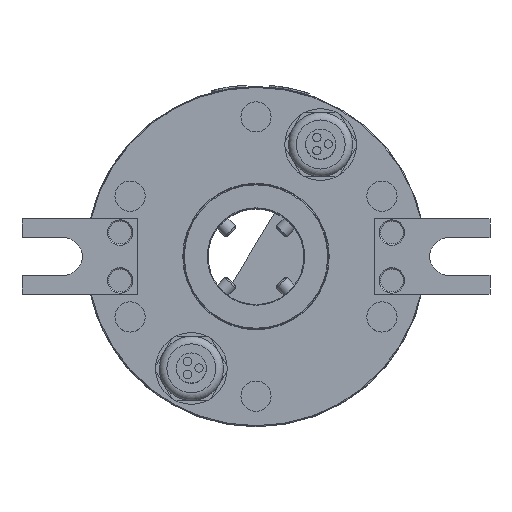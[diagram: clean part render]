
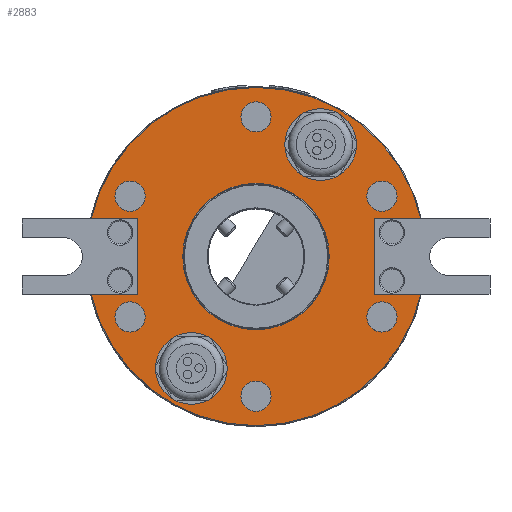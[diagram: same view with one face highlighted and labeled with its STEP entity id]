
A CAD part, top view. The second image highlights one B-rep face of the part: STEP entity #2883.
In plain terms, the highlighted planar face has unit normal (0, 0, 1).
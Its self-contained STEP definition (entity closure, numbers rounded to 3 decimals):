
#367=FACE_BOUND('',#5011,.T.);
#368=FACE_BOUND('',#5012,.T.);
#369=FACE_BOUND('',#5013,.T.);
#370=FACE_BOUND('',#5014,.T.);
#371=FACE_BOUND('',#5015,.T.);
#372=FACE_BOUND('',#5016,.T.);
#373=FACE_BOUND('',#5017,.T.);
#374=FACE_BOUND('',#5018,.T.);
#375=FACE_BOUND('',#5019,.T.);
#376=FACE_BOUND('',#5020,.T.);
#744=CIRCLE('',#15620,19.4);
#745=CIRCLE('',#15622,4.);
#746=CIRCLE('',#15624,4.);
#747=CIRCLE('',#15626,4.);
#748=CIRCLE('',#15628,4.);
#749=CIRCLE('',#15630,4.);
#750=CIRCLE('',#15632,4.);
#751=CIRCLE('',#15634,9.5);
#752=CIRCLE('',#15636,9.5);
#755=CIRCLE('',#15648,44.8);
#756=CIRCLE('',#15649,44.8);
#1428=LINE('',#28771,#2068);
#1432=LINE('',#28779,#2072);
#1434=LINE('',#28783,#2074);
#1436=LINE('',#28787,#2076);
#1449=LINE('',#28842,#2089);
#1450=LINE('',#28844,#2090);
#2068=VECTOR('',#17767,1.);
#2072=VECTOR('',#17773,1.);
#2074=VECTOR('',#17777,1.);
#2076=VECTOR('',#17781,1.);
#2089=VECTOR('',#17844,1.);
#2090=VECTOR('',#17847,1.);
#2883=ADVANCED_FACE('',(#367,#368,#369,#370,#371,#372,#373,#374,#375,#376),
#3450,.T.);
#3450=PLANE('',#15650);
#5011=EDGE_LOOP('',(#8411));
#5012=EDGE_LOOP('',(#8412));
#5013=EDGE_LOOP('',(#8413));
#5014=EDGE_LOOP('',(#8414));
#5015=EDGE_LOOP('',(#8415));
#5016=EDGE_LOOP('',(#8416));
#5017=EDGE_LOOP('',(#8417));
#5018=EDGE_LOOP('',(#8418));
#5019=EDGE_LOOP('',(#8419));
#5020=EDGE_LOOP('',(#8420,#8421,#8422,#8423,#8424,#8425,#8426,#8427));
#8411=ORIENTED_EDGE('',*,*,#12862,.F.);
#8412=ORIENTED_EDGE('',*,*,#12861,.F.);
#8413=ORIENTED_EDGE('',*,*,#12860,.F.);
#8414=ORIENTED_EDGE('',*,*,#12859,.F.);
#8415=ORIENTED_EDGE('',*,*,#12858,.F.);
#8416=ORIENTED_EDGE('',*,*,#12857,.F.);
#8417=ORIENTED_EDGE('',*,*,#12856,.F.);
#8418=ORIENTED_EDGE('',*,*,#12855,.F.);
#8419=ORIENTED_EDGE('',*,*,#12854,.F.);
#8420=ORIENTED_EDGE('',*,*,#12852,.F.);
#8421=ORIENTED_EDGE('',*,*,#12850,.F.);
#8422=ORIENTED_EDGE('',*,*,#12848,.F.);
#8423=ORIENTED_EDGE('',*,*,#12879,.T.);
#8424=ORIENTED_EDGE('',*,*,#12876,.F.);
#8425=ORIENTED_EDGE('',*,*,#12844,.F.);
#8426=ORIENTED_EDGE('',*,*,#12875,.F.);
#8427=ORIENTED_EDGE('',*,*,#12880,.T.);
#10840=VERTEX_POINT('',#28772);
#10841=VERTEX_POINT('',#28773);
#10842=VERTEX_POINT('',#28778);
#10843=VERTEX_POINT('',#28780);
#10844=VERTEX_POINT('',#28784);
#10845=VERTEX_POINT('',#28788);
#10846=VERTEX_POINT('',#28792);
#10847=VERTEX_POINT('',#28795);
#10848=VERTEX_POINT('',#28798);
#10849=VERTEX_POINT('',#28801);
#10850=VERTEX_POINT('',#28804);
#10851=VERTEX_POINT('',#28807);
#10852=VERTEX_POINT('',#28810);
#10853=VERTEX_POINT('',#28813);
#10854=VERTEX_POINT('',#28816);
#10861=VERTEX_POINT('',#28841);
#10862=VERTEX_POINT('',#28845);
#12844=EDGE_CURVE('',#10840,#10841,#1428,.T.);
#12848=EDGE_CURVE('',#10842,#10843,#1432,.T.);
#12850=EDGE_CURVE('',#10843,#10844,#1434,.T.);
#12852=EDGE_CURVE('',#10844,#10845,#1436,.T.);
#12854=EDGE_CURVE('',#10846,#10846,#744,.T.);
#12855=EDGE_CURVE('',#10847,#10847,#745,.T.);
#12856=EDGE_CURVE('',#10848,#10848,#746,.T.);
#12857=EDGE_CURVE('',#10849,#10849,#747,.T.);
#12858=EDGE_CURVE('',#10850,#10850,#748,.T.);
#12859=EDGE_CURVE('',#10851,#10851,#749,.T.);
#12860=EDGE_CURVE('',#10852,#10852,#750,.T.);
#12861=EDGE_CURVE('',#10853,#10853,#751,.T.);
#12862=EDGE_CURVE('',#10854,#10854,#752,.T.);
#12875=EDGE_CURVE('',#10861,#10840,#1449,.T.);
#12876=EDGE_CURVE('',#10841,#10862,#1450,.T.);
#12879=EDGE_CURVE('',#10842,#10862,#755,.T.);
#12880=EDGE_CURVE('',#10861,#10845,#756,.T.);
#15620=AXIS2_PLACEMENT_3D('',#28791,#17785,#17786);
#15622=AXIS2_PLACEMENT_3D('',#28794,#17789,#17790);
#15624=AXIS2_PLACEMENT_3D('',#28797,#17793,#17794);
#15626=AXIS2_PLACEMENT_3D('',#28800,#17797,#17798);
#15628=AXIS2_PLACEMENT_3D('',#28803,#17801,#17802);
#15630=AXIS2_PLACEMENT_3D('',#28806,#17805,#17806);
#15632=AXIS2_PLACEMENT_3D('',#28809,#17809,#17810);
#15634=AXIS2_PLACEMENT_3D('',#28812,#17813,#17814);
#15636=AXIS2_PLACEMENT_3D('',#28815,#17817,#17818);
#15648=AXIS2_PLACEMENT_3D('',#28850,#17855,#17856);
#15649=AXIS2_PLACEMENT_3D('',#28851,#17857,#17858);
#15650=AXIS2_PLACEMENT_3D('',#28852,#17859,#17860);
#17767=DIRECTION('',(0.,1.,0.));
#17773=DIRECTION('',(-1.,0.,0.));
#17777=DIRECTION('',(0.,-1.,0.));
#17781=DIRECTION('',(1.,0.,0.));
#17785=DIRECTION('',(0.,0.,1.));
#17786=DIRECTION('',(0.,1.,0.));
#17789=DIRECTION('',(0.,0.,1.));
#17790=DIRECTION('',(0.,1.,0.));
#17793=DIRECTION('',(0.,0.,1.));
#17794=DIRECTION('',(0.,1.,0.));
#17797=DIRECTION('',(0.,0.,1.));
#17798=DIRECTION('',(0.,1.,0.));
#17801=DIRECTION('',(0.,0.,1.));
#17802=DIRECTION('',(0.,1.,0.));
#17805=DIRECTION('',(0.,0.,1.));
#17806=DIRECTION('',(0.,1.,0.));
#17809=DIRECTION('',(0.,0.,1.));
#17810=DIRECTION('',(0.,1.,0.));
#17813=DIRECTION('',(0.,0.,1.));
#17814=DIRECTION('',(0.,1.,0.));
#17817=DIRECTION('',(0.,0.,1.));
#17818=DIRECTION('',(-0.866,0.5,0.));
#17844=DIRECTION('',(1.,0.,0.));
#17847=DIRECTION('',(-1.,0.,0.));
#17855=DIRECTION('',(0.,0.,1.));
#17856=DIRECTION('',(1.,0.,0.));
#17857=DIRECTION('',(0.,0.,1.));
#17858=DIRECTION('',(1.,0.,0.));
#17859=DIRECTION('',(0.,0.,1.));
#17860=DIRECTION('',(0.,-1.,0.));
#28771=CARTESIAN_POINT('',(-31.5,-10.,82.));
#28772=CARTESIAN_POINT('',(-31.5,-10.,82.));
#28773=CARTESIAN_POINT('',(-31.5,10.,82.));
#28778=CARTESIAN_POINT('',(43.67,10.,82.));
#28779=CARTESIAN_POINT('',(62.,10.,82.));
#28780=CARTESIAN_POINT('',(31.5,10.,82.));
#28783=CARTESIAN_POINT('',(31.5,10.,82.));
#28784=CARTESIAN_POINT('',(31.5,-10.,82.));
#28787=CARTESIAN_POINT('',(31.5,-10.,82.));
#28788=CARTESIAN_POINT('',(43.67,-10.,82.));
#28791=CARTESIAN_POINT('',(0.,0.,82.));
#28792=CARTESIAN_POINT('',(0.,19.4,82.));
#28794=CARTESIAN_POINT('',(33.362,16.,82.));
#28795=CARTESIAN_POINT('',(33.362,20.,82.));
#28797=CARTESIAN_POINT('',(33.362,-16.,82.));
#28798=CARTESIAN_POINT('',(33.362,-12.,82.));
#28800=CARTESIAN_POINT('',(0.,37.,82.));
#28801=CARTESIAN_POINT('',(0.,41.,82.));
#28803=CARTESIAN_POINT('',(0.,-37.,82.));
#28804=CARTESIAN_POINT('',(0.,-33.,82.));
#28806=CARTESIAN_POINT('',(-33.362,16.,82.));
#28807=CARTESIAN_POINT('',(-33.362,20.,82.));
#28809=CARTESIAN_POINT('',(-33.362,-16.,82.));
#28810=CARTESIAN_POINT('',(-33.362,-12.,82.));
#28812=CARTESIAN_POINT('',(17.125,29.661,82.));
#28813=CARTESIAN_POINT('',(17.125,39.161,82.));
#28815=CARTESIAN_POINT('',(-17.125,-29.661,82.));
#28816=CARTESIAN_POINT('',(-25.352,-24.911,82.));
#28841=CARTESIAN_POINT('',(-43.67,-10.,82.));
#28842=CARTESIAN_POINT('',(-62.,-10.,82.));
#28844=CARTESIAN_POINT('',(-31.5,10.,82.));
#28845=CARTESIAN_POINT('',(-43.67,10.,82.));
#28850=CARTESIAN_POINT('',(0.,0.,82.));
#28851=CARTESIAN_POINT('',(0.,0.,82.));
#28852=CARTESIAN_POINT('',(-45.,0.,82.));
